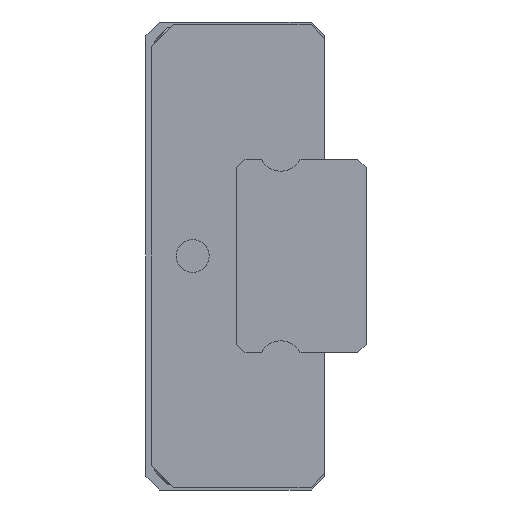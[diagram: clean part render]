
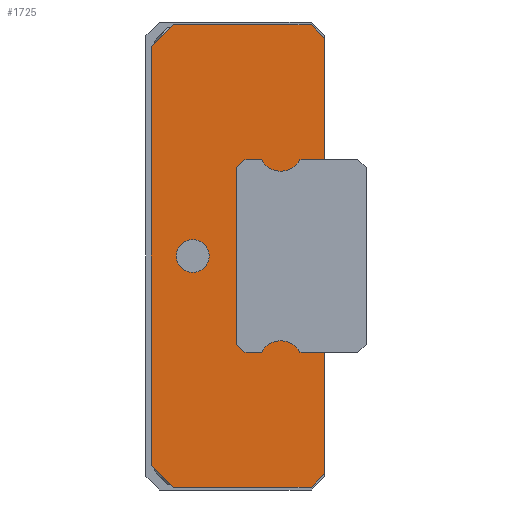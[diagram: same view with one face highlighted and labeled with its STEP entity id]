
A CAD part, left-side view. The second image highlights one B-rep face of the part: STEP entity #1725.
In plain terms, the highlighted planar face has unit normal (-1, 0, 0).
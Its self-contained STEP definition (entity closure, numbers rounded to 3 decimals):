
#61=CIRCLE('',#1869,0.6);
#62=CIRCLE('',#1870,0.79);
#63=CIRCLE('',#1871,0.79);
#309=ORIENTED_EDGE('',*,*,#701,.T.);
#310=ORIENTED_EDGE('',*,*,#702,.T.);
#311=ORIENTED_EDGE('',*,*,#673,.F.);
#312=ORIENTED_EDGE('',*,*,#703,.F.);
#313=ORIENTED_EDGE('',*,*,#704,.F.);
#314=ORIENTED_EDGE('',*,*,#705,.F.);
#315=ORIENTED_EDGE('',*,*,#706,.F.);
#316=ORIENTED_EDGE('',*,*,#707,.F.);
#317=ORIENTED_EDGE('',*,*,#708,.F.);
#318=ORIENTED_EDGE('',*,*,#709,.F.);
#319=ORIENTED_EDGE('',*,*,#675,.F.);
#320=ORIENTED_EDGE('',*,*,#710,.F.);
#321=ORIENTED_EDGE('',*,*,#711,.F.);
#322=ORIENTED_EDGE('',*,*,#712,.T.);
#323=ORIENTED_EDGE('',*,*,#713,.T.);
#324=ORIENTED_EDGE('',*,*,#714,.T.);
#325=ORIENTED_EDGE('',*,*,#715,.T.);
#326=ORIENTED_EDGE('',*,*,#716,.T.);
#327=ORIENTED_EDGE('',*,*,#717,.F.);
#673=EDGE_CURVE('',#877,#871,#1057,.T.);
#675=EDGE_CURVE('',#878,#880,#1059,.T.);
#701=EDGE_CURVE('',#901,#901,#61,.T.);
#702=EDGE_CURVE('',#902,#871,#1082,.T.);
#703=EDGE_CURVE('',#903,#877,#1083,.T.);
#704=EDGE_CURVE('',#904,#903,#1084,.T.);
#705=EDGE_CURVE('',#905,#904,#1085,.T.);
#706=EDGE_CURVE('',#906,#905,#1086,.T.);
#707=EDGE_CURVE('',#907,#906,#1087,.T.);
#708=EDGE_CURVE('',#908,#907,#1088,.T.);
#709=EDGE_CURVE('',#880,#908,#1089,.T.);
#710=EDGE_CURVE('',#909,#878,#1090,.T.);
#711=EDGE_CURVE('',#910,#909,#62,.T.);
#712=EDGE_CURVE('',#910,#911,#1091,.T.);
#713=EDGE_CURVE('',#911,#912,#1092,.T.);
#714=EDGE_CURVE('',#912,#913,#1093,.T.);
#715=EDGE_CURVE('',#913,#914,#1094,.T.);
#716=EDGE_CURVE('',#914,#915,#1095,.T.);
#717=EDGE_CURVE('',#902,#915,#63,.T.);
#871=VERTEX_POINT('',#2639);
#877=VERTEX_POINT('',#2653);
#878=VERTEX_POINT('',#2657);
#880=VERTEX_POINT('',#2660);
#901=VERTEX_POINT('',#2709);
#902=VERTEX_POINT('',#2711);
#903=VERTEX_POINT('',#2713);
#904=VERTEX_POINT('',#2715);
#905=VERTEX_POINT('',#2717);
#906=VERTEX_POINT('',#2719);
#907=VERTEX_POINT('',#2721);
#908=VERTEX_POINT('',#2723);
#909=VERTEX_POINT('',#2726);
#910=VERTEX_POINT('',#2728);
#911=VERTEX_POINT('',#2730);
#912=VERTEX_POINT('',#2732);
#913=VERTEX_POINT('',#2734);
#914=VERTEX_POINT('',#2736);
#915=VERTEX_POINT('',#2738);
#1057=LINE('',#2654,#1253);
#1059=LINE('',#2659,#1255);
#1082=LINE('',#2710,#1278);
#1083=LINE('',#2712,#1279);
#1084=LINE('',#2714,#1280);
#1085=LINE('',#2716,#1281);
#1086=LINE('',#2718,#1282);
#1087=LINE('',#2720,#1283);
#1088=LINE('',#2722,#1284);
#1089=LINE('',#2724,#1285);
#1090=LINE('',#2725,#1286);
#1091=LINE('',#2729,#1287);
#1092=LINE('',#2731,#1288);
#1093=LINE('',#2733,#1289);
#1094=LINE('',#2735,#1290);
#1095=LINE('',#2737,#1291);
#1253=VECTOR('',#2156,1000.);
#1255=VECTOR('',#2160,1000.);
#1278=VECTOR('',#2195,1000.);
#1279=VECTOR('',#2196,1000.);
#1280=VECTOR('',#2197,1000.);
#1281=VECTOR('',#2198,1000.);
#1282=VECTOR('',#2199,1000.);
#1283=VECTOR('',#2200,1000.);
#1284=VECTOR('',#2201,1000.);
#1285=VECTOR('',#2202,1000.);
#1286=VECTOR('',#2203,1000.);
#1287=VECTOR('',#2206,1000.);
#1288=VECTOR('',#2207,1000.);
#1289=VECTOR('',#2208,1000.);
#1290=VECTOR('',#2209,1000.);
#1291=VECTOR('',#2210,1000.);
#1408=EDGE_LOOP('',(#309));
#1409=EDGE_LOOP('',(#310,#311,#312,#313,#314,#315,#316,#317,#318,#319,#320,
#321,#322,#323,#324,#325,#326,#327));
#1536=FACE_BOUND('',#1408,.T.);
#1537=FACE_BOUND('',#1409,.T.);
#1644=PLANE('',#1868);
#1725=ADVANCED_FACE('',(#1536,#1537),#1644,.F.);
#1868=AXIS2_PLACEMENT_3D('',#2707,#2191,#2192);
#1869=AXIS2_PLACEMENT_3D('',#2708,#2193,#2194);
#1870=AXIS2_PLACEMENT_3D('',#2727,#2204,#2205);
#1871=AXIS2_PLACEMENT_3D('',#2739,#2211,#2212);
#2156=DIRECTION('',(0.,0.,-1.));
#2160=DIRECTION('',(0.,0.,-1.));
#2191=DIRECTION('',(1.,0.,0.));
#2192=DIRECTION('',(0.,0.,-1.));
#2193=DIRECTION('',(1.,0.,0.));
#2194=DIRECTION('',(0.,0.,-1.));
#2195=DIRECTION('',(0.,-1.,0.));
#2196=DIRECTION('',(0.,-0.707,-0.707));
#2197=DIRECTION('',(0.,-1.,0.));
#2198=DIRECTION('',(0.,-0.707,0.707));
#2199=DIRECTION('',(0.,0.,1.));
#2200=DIRECTION('',(0.,0.707,0.707));
#2201=DIRECTION('',(0.,1.,0.));
#2202=DIRECTION('',(0.,0.707,-0.707));
#2203=DIRECTION('',(0.,-1.,0.));
#2204=DIRECTION('',(1.,0.,0.));
#2205=DIRECTION('',(0.,0.,-1.));
#2206=DIRECTION('',(0.,1.,0.));
#2207=DIRECTION('',(0.,0.707,0.707));
#2208=DIRECTION('',(0.,0.,1.));
#2209=DIRECTION('',(0.,-0.707,0.707));
#2210=DIRECTION('',(0.,-1.,0.));
#2211=DIRECTION('',(1.,0.,0.));
#2212=DIRECTION('',(0.,0.,-1.));
#2639=CARTESIAN_POINT('',(-15.5,0.,3.5));
#2653=CARTESIAN_POINT('',(-15.5,0.,7.9));
#2654=CARTESIAN_POINT('',(-15.5,0.,7.9));
#2657=CARTESIAN_POINT('',(-15.5,0.,-3.5));
#2659=CARTESIAN_POINT('',(-15.5,0.,7.9));
#2660=CARTESIAN_POINT('',(-15.5,0.,-7.9));
#2707=CARTESIAN_POINT('',(-15.5,0.,0.));
#2708=CARTESIAN_POINT('',(-15.5,4.8,0.));
#2709=CARTESIAN_POINT('',(-15.5,4.8,-0.6));
#2710=CARTESIAN_POINT('',(-15.5,0.902,3.5));
#2711=CARTESIAN_POINT('',(-15.5,0.902,3.5));
#2712=CARTESIAN_POINT('',(-15.5,0.5,8.4));
#2713=CARTESIAN_POINT('',(-15.5,0.5,8.4));
#2714=CARTESIAN_POINT('',(-15.5,5.5,8.4));
#2715=CARTESIAN_POINT('',(-15.5,5.5,8.4));
#2716=CARTESIAN_POINT('',(-15.5,6.3,7.6));
#2717=CARTESIAN_POINT('',(-15.5,6.3,7.6));
#2718=CARTESIAN_POINT('',(-15.5,6.3,-7.6));
#2719=CARTESIAN_POINT('',(-15.5,6.3,-7.6));
#2720=CARTESIAN_POINT('',(-15.5,5.5,-8.4));
#2721=CARTESIAN_POINT('',(-15.5,5.5,-8.4));
#2722=CARTESIAN_POINT('',(-15.5,0.5,-8.4));
#2723=CARTESIAN_POINT('',(-15.5,0.5,-8.4));
#2724=CARTESIAN_POINT('',(-15.5,0.,-7.9));
#2725=CARTESIAN_POINT('',(-15.5,0.,-3.5));
#2726=CARTESIAN_POINT('',(-15.5,0.902,-3.5));
#2727=CARTESIAN_POINT('',(-15.5,1.6,-3.87));
#2728=CARTESIAN_POINT('',(-15.5,2.298,-3.5));
#2729=CARTESIAN_POINT('',(-15.5,2.298,-3.5));
#2730=CARTESIAN_POINT('',(-15.5,2.9,-3.5));
#2731=CARTESIAN_POINT('',(-15.5,2.9,-3.5));
#2732=CARTESIAN_POINT('',(-15.5,3.2,-3.2));
#2733=CARTESIAN_POINT('',(-15.5,3.2,-3.2));
#2734=CARTESIAN_POINT('',(-15.5,3.2,3.2));
#2735=CARTESIAN_POINT('',(-15.5,3.2,3.2));
#2736=CARTESIAN_POINT('',(-15.5,2.9,3.5));
#2737=CARTESIAN_POINT('',(-15.5,2.9,3.5));
#2738=CARTESIAN_POINT('',(-15.5,2.298,3.5));
#2739=CARTESIAN_POINT('',(-15.5,1.6,3.87));
